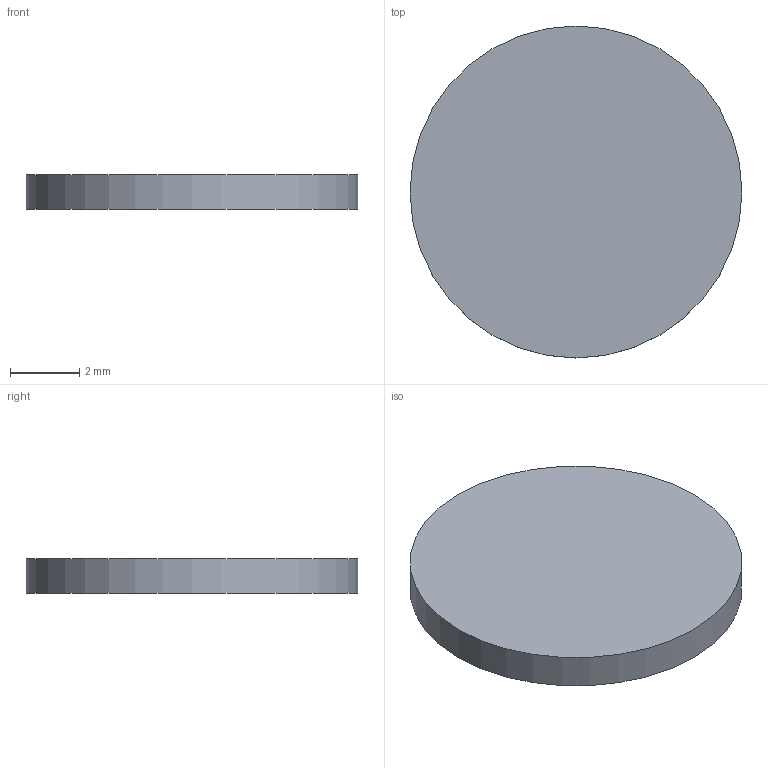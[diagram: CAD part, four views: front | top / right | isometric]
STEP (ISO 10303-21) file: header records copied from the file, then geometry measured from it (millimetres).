
FILE_DESCRIPTION(('FreeCAD Model'),'2;1');
FILE_NAME('Open CASCADE Shape Model','2026-09-05T19:19:37',('FreeCAD'),( 'FreeCAD'),'Open CASCADE STEP processor 7.8','FreeCAD','Unknown');
FILE_SCHEMA(('AUTOMOTIVE_DESIGN { 1 0 10303 214 1 1 1 1 }'));
Length unit declared in the file: millimetre
Products named in the file (1): Open CASCADE STEP translator 7.8 4
Bounding box: 9.6 x 9.6 x 1 mm (x, y, z)
Volume: 72.4 mm3; surface area: 174.9 mm2
Topology: 1 solids, 1 shells, 3 faces, 3 edges, 2 vertices
Faces by surface type: plane 2, cylinder 1
Full cylindrical faces by diameter (mm): 9.6 x1
Entity records: 69 total; most frequent: DIRECTION 13, CARTESIAN_POINT 9, AXIS2_PLACEMENT_3D 6, ORIENTED_EDGE 6, ADVANCED_FACE 3, FACE_BOUND 3, EDGE_LOOP 3, EDGE_CURVE 3
